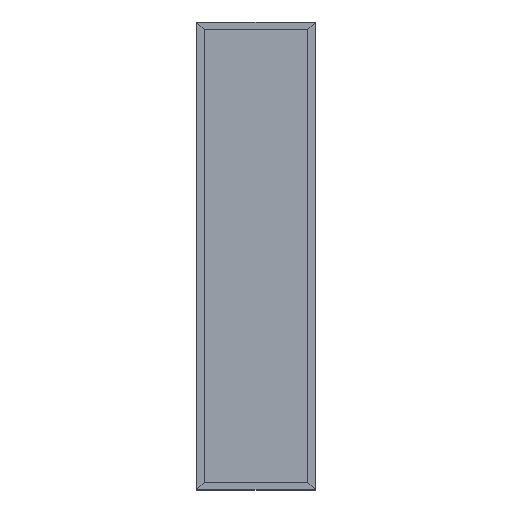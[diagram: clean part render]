
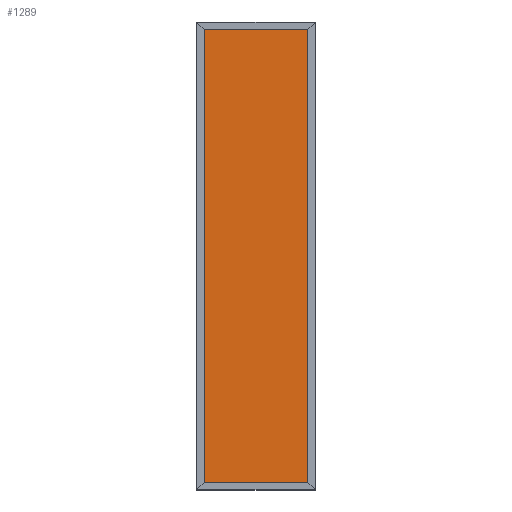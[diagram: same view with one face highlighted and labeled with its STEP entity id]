
A CAD part, top view. The second image highlights one B-rep face of the part: STEP entity #1289.
In plain terms, the highlighted planar face has unit normal (0, 0, 1).
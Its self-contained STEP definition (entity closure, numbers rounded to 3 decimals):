
#604 = CARTESIAN_POINT ( 'NONE',  ( 0., 0., -13.25 ) ) ;
#1289 = ADVANCED_FACE ( 'NONE', ( #6504 ), #9154, .F. ) ;
#1545 = VERTEX_POINT ( 'NONE', #13271 ) ;
#1659 = VERTEX_POINT ( 'NONE', #3252 ) ;
#2344 = CARTESIAN_POINT ( 'NONE',  ( -267.075, 0., -13.25 ) ) ;
#2440 = ORIENTED_EDGE ( 'NONE', *, *, #2825, .F. ) ;
#2825 = EDGE_CURVE ( 'NONE', #1659, #1545, #10014, .T. ) ;
#3173 = LINE ( 'NONE', #15684, #6286 ) ;
#3252 = CARTESIAN_POINT ( 'NONE',  ( 267.075, -1162.2, -13.25 ) ) ;
#3892 = EDGE_CURVE ( 'NONE', #1545, #10255, #9306, .T. ) ;
#4514 = CARTESIAN_POINT ( 'NONE',  ( 0., -1162.2, -13.25 ) ) ;
#5358 = VECTOR ( 'NONE', #10236, 1000. ) ;
#5779 = CARTESIAN_POINT ( 'NONE',  ( 267.075, 1162.2, -13.25 ) ) ;
#6222 = DIRECTION ( 'NONE',  ( 0., 0., -1. ) ) ;
#6286 = VECTOR ( 'NONE', #8695, 1000. ) ;
#6373 = CARTESIAN_POINT ( 'NONE',  ( -267.075, 1162.2, -13.25 ) ) ;
#6459 = VECTOR ( 'NONE', #9742, 1000. ) ;
#6504 = FACE_OUTER_BOUND ( 'NONE', #14119, .T. ) ;
#7130 = CARTESIAN_POINT ( 'NONE',  ( 267.075, 0., -13.25 ) ) ;
#7689 = ORIENTED_EDGE ( 'NONE', *, *, #3892, .F. ) ;
#8194 = ORIENTED_EDGE ( 'NONE', *, *, #15439, .T. ) ;
#8433 = VERTEX_POINT ( 'NONE', #5779 ) ;
#8695 = DIRECTION ( 'NONE',  ( -1., 0., 0. ) ) ;
#9154 = PLANE ( 'NONE',  #14917 ) ;
#9306 = LINE ( 'NONE', #2344, #14585 ) ;
#9742 = DIRECTION ( 'NONE',  ( -1., 0., 0. ) ) ;
#10014 = LINE ( 'NONE', #4514, #6459 ) ;
#10236 = DIRECTION ( 'NONE',  ( 0., 1., 0. ) ) ;
#10255 = VERTEX_POINT ( 'NONE', #6373 ) ;
#11824 = DIRECTION ( 'NONE',  ( -1., 0., 0. ) ) ;
#12245 = DIRECTION ( 'NONE',  ( 0., 1., 0. ) ) ;
#13271 = CARTESIAN_POINT ( 'NONE',  ( -267.075, -1162.2, -13.25 ) ) ;
#14119 = EDGE_LOOP ( 'NONE', ( #2440, #8194, #15855, #7689 ) ) ;
#14585 = VECTOR ( 'NONE', #12245, 1000. ) ;
#14917 = AXIS2_PLACEMENT_3D ( 'NONE', #604, #6222, #11824 ) ;
#15439 = EDGE_CURVE ( 'NONE', #1659, #8433, #15844, .T. ) ;
#15684 = CARTESIAN_POINT ( 'NONE',  ( 0., 1162.2, -13.25 ) ) ;
#15844 = LINE ( 'NONE', #7130, #5358 ) ;
#15855 = ORIENTED_EDGE ( 'NONE', *, *, #16342, .T. ) ;
#16342 = EDGE_CURVE ( 'NONE', #8433, #10255, #3173, .T. ) ;
